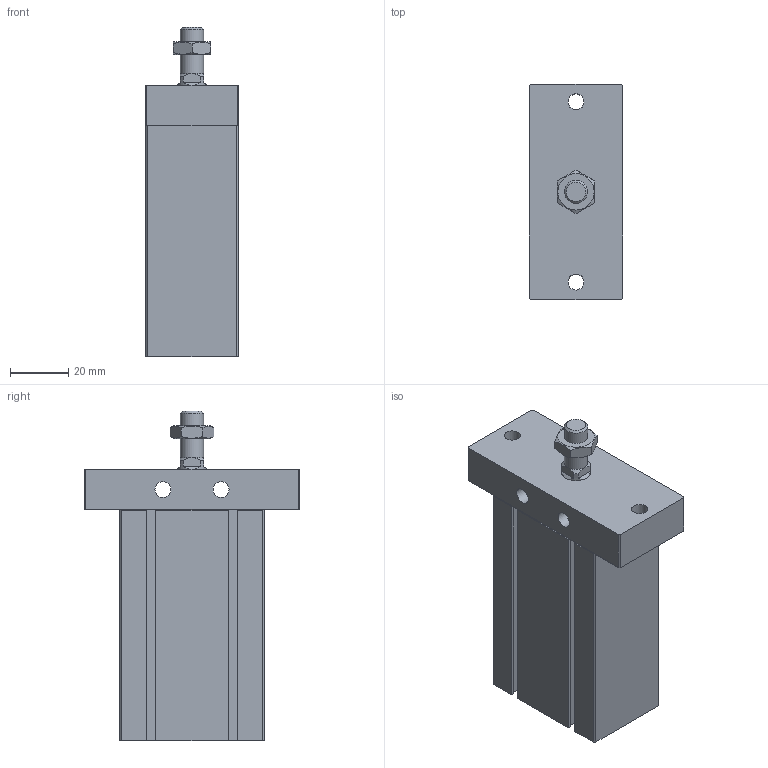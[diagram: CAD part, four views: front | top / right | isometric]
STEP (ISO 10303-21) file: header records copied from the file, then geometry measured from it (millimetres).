
FILE_DESCRIPTION((''),'2;1');
FILE_NAME('J:\3D電子目錄\氣缸\ND\ND\ND25-FBS\ND25x40-FBS.stp','2008-03-13T09:55:17',('66-2f-008'),(''),'Autodesk Inventor 11','Autodesk Inventor 11','');
FILE_SCHEMA(('AUTOMOTIVE_DESIGN { 1 0 10303 214 1 1 1 1 }'));
Length unit declared in the file: millimetre
Products named in the file (1): ND25-FBS
Bounding box: 32 x 74 x 113.5 mm (x, y, z)
Volume: 149546.3 mm3; surface area: 28571 mm2
Topology: 2 solids, 2 shells, 129 faces, 311 edges, 197 vertices
Faces by surface type: plane 87, cone 14, bspline 14, cylinder 13, torus 1
Full cylindrical faces by diameter (mm): 1.5 x2, 5.5 x2, 8 x2, 17 x1, 28 x1, 29.4 x1
Entity records: 3654 total; most frequent: CARTESIAN_POINT 820, DIRECTION 552, ORIENTED_EDGE 552, EDGE_CURVE 276, VERTEX_POINT 192, VECTOR 192, LINE 192, AXIS2_PLACEMENT_3D 180
